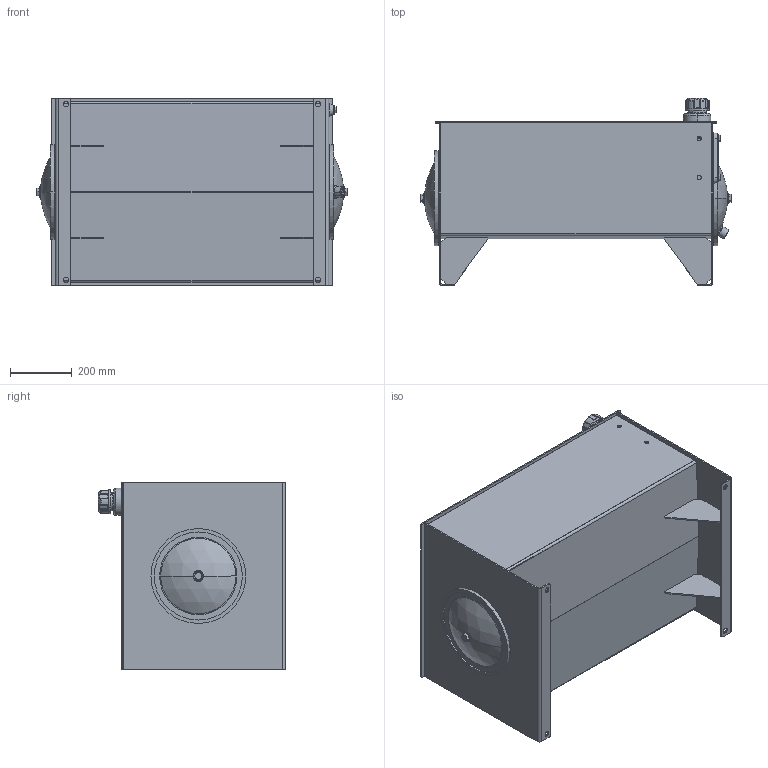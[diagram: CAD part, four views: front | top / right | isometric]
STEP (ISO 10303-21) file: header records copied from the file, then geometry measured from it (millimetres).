
FILE_DESCRIPTION (( 'STEP AP203' ), '1' );
FILE_NAME ('RJIC040-FT.STEP', '2015-01-07T16:43:48', ( '' ), ( '' ), 'SwSTEP 2.0', 'SolidWorks 2014', '' );
FILE_SCHEMA (( 'CONFIG_CONTROL_DESIGN' ));
Length unit declared in the file: inch
Products named in the file (1): RJIC040-FT
Bounding box: 1010.19 x 608.97 x 609.6 mm (x, y, z)
Volume: 11188110.1 mm3; surface area: 6045510 mm2
Topology: 24 solids, 24 shells, 747 faces, 1761 edges, 1065 vertices
Faces by surface type: cylinder 272, plane 248, cone 84, torus 60, bspline 51, sphere 32
Entity records: 24478 total; most frequent: CARTESIAN_POINT 7028, DIRECTION 3816, ORIENTED_EDGE 3498, EDGE_CURVE 1749, AXIS2_PLACEMENT_3D 1523, VERTEX_POINT 1065, EDGE_LOOP 860, CIRCLE 826
